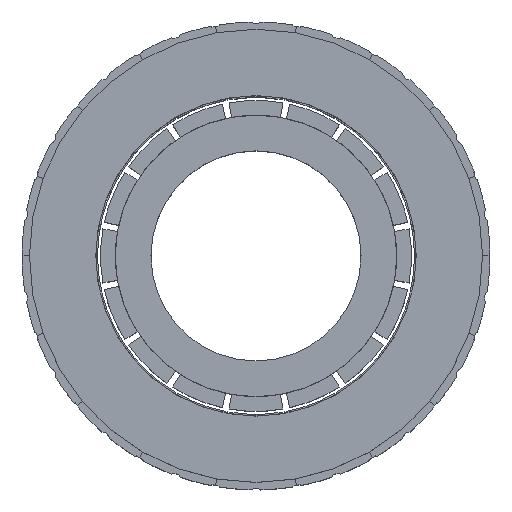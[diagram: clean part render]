
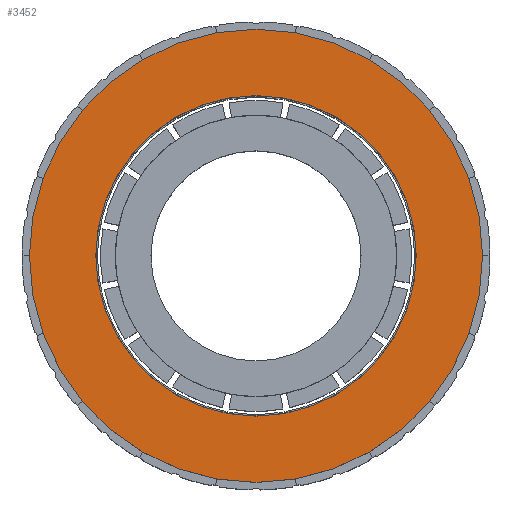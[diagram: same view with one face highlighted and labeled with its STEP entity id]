
A CAD part, top view. The second image highlights one B-rep face of the part: STEP entity #3452.
In plain terms, the highlighted planar face has unit normal (0, 0, 1).
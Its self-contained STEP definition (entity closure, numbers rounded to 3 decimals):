
#173 = EDGE_CURVE ( 'NONE', #3916, #4170, #1238, .T. ) ;
#447 = DIRECTION ( 'NONE',  ( 0., 0., 1. ) ) ;
#479 = CARTESIAN_POINT ( 'NONE',  ( 0., 0., 9. ) ) ;
#703 = CIRCLE ( 'NONE', #1949, 43.5 ) ;
#760 = DIRECTION ( 'NONE',  ( 1., 0., 0. ) ) ;
#1006 = DIRECTION ( 'NONE',  ( 1., 0., 0. ) ) ;
#1232 = EDGE_LOOP ( 'NONE', ( #2543, #4634 ) ) ;
#1238 = CIRCLE ( 'NONE', #2271, 61.5 ) ;
#1389 = DIRECTION ( 'NONE',  ( 1., 0., 0. ) ) ;
#1588 = CARTESIAN_POINT ( 'NONE',  ( 0., 0., 9. ) ) ;
#1628 = CARTESIAN_POINT ( 'NONE',  ( -61.5, 0., 9. ) ) ;
#1637 = DIRECTION ( 'NONE',  ( 1., 0., 0. ) ) ;
#1750 = CARTESIAN_POINT ( 'NONE',  ( -43.5, 0., 9. ) ) ;
#1793 = CIRCLE ( 'NONE', #4391, 61.5 ) ;
#1888 = DIRECTION ( 'NONE',  ( 0., 0., 1. ) ) ;
#1949 = AXIS2_PLACEMENT_3D ( 'NONE', #3279, #447, #3224 ) ;
#2271 = AXIS2_PLACEMENT_3D ( 'NONE', #2953, #4940, #1389 ) ;
#2543 = ORIENTED_EDGE ( 'NONE', *, *, #3182, .F. ) ;
#2659 = CARTESIAN_POINT ( 'NONE',  ( 61.5, 0., 9. ) ) ;
#2816 = ORIENTED_EDGE ( 'NONE', *, *, #3109, .T. ) ;
#2923 = EDGE_CURVE ( 'NONE', #2933, #3405, #4314, .T. ) ;
#2933 = VERTEX_POINT ( 'NONE', #5120 ) ;
#2953 = CARTESIAN_POINT ( 'NONE',  ( 0., 0., 9. ) ) ;
#3015 = DIRECTION ( 'NONE',  ( 0., 0., 1. ) ) ;
#3109 = EDGE_CURVE ( 'NONE', #4170, #3916, #1793, .T. ) ;
#3182 = EDGE_CURVE ( 'NONE', #3405, #2933, #703, .T. ) ;
#3224 = DIRECTION ( 'NONE',  ( 1., 0., 0. ) ) ;
#3279 = CARTESIAN_POINT ( 'NONE',  ( 0., 0., 9. ) ) ;
#3359 = FACE_OUTER_BOUND ( 'NONE', #4382, .T. ) ;
#3405 = VERTEX_POINT ( 'NONE', #1750 ) ;
#3410 = FACE_BOUND ( 'NONE', #1232, .T. ) ;
#3452 = ADVANCED_FACE ( 'NONE', ( #3359, #3410 ), #3455, .T. ) ;
#3455 = PLANE ( 'NONE',  #4146 ) ;
#3916 = VERTEX_POINT ( 'NONE', #1628 ) ;
#3924 = ORIENTED_EDGE ( 'NONE', *, *, #173, .T. ) ;
#4138 = AXIS2_PLACEMENT_3D ( 'NONE', #1588, #1888, #760 ) ;
#4146 = AXIS2_PLACEMENT_3D ( 'NONE', #5020, #3015, #1006 ) ;
#4170 = VERTEX_POINT ( 'NONE', #2659 ) ;
#4314 = CIRCLE ( 'NONE', #4138, 43.5 ) ;
#4382 = EDGE_LOOP ( 'NONE', ( #3924, #2816 ) ) ;
#4391 = AXIS2_PLACEMENT_3D ( 'NONE', #479, #4457, #1637 ) ;
#4457 = DIRECTION ( 'NONE',  ( 0., 0., 1. ) ) ;
#4634 = ORIENTED_EDGE ( 'NONE', *, *, #2923, .F. ) ;
#4940 = DIRECTION ( 'NONE',  ( 0., 0., 1. ) ) ;
#5020 = CARTESIAN_POINT ( 'NONE',  ( 0., 0., 9. ) ) ;
#5120 = CARTESIAN_POINT ( 'NONE',  ( 43.5, 0., 9. ) ) ;
